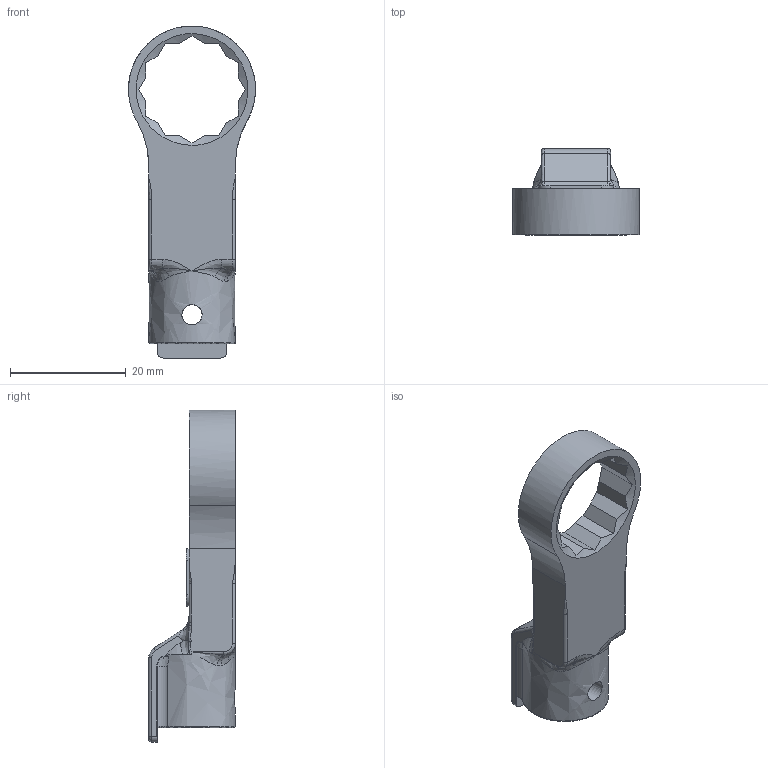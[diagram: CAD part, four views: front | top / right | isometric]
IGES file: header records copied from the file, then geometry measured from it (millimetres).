
Global section: file name: RH10DX16; native system: Autodesk Inventor 2016; preprocessor: unknown; author: Q600; date: 20151110.155357; units: millimetre
Bounding box: 21.99 x 15 x 57.49 mm (x, y, z)
Volume: 5333.3 mm3; surface area: 3514.8 mm2
Topology: 1 solids, 1 shells, 126 faces, 347 edges, 213 vertices
Faces by surface type: bspline 126
